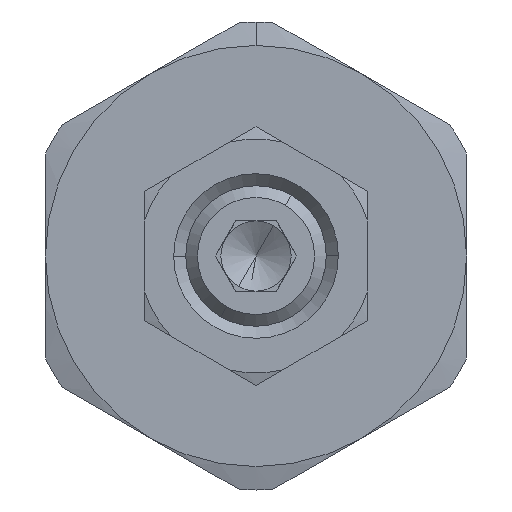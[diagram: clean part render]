
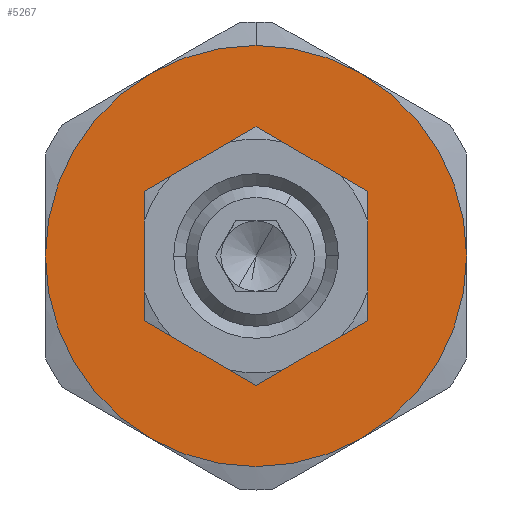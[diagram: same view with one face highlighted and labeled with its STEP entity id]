
A CAD part, front view. The second image highlights one B-rep face of the part: STEP entity #5267.
In plain terms, the highlighted planar face has unit normal (0, -1, 0).
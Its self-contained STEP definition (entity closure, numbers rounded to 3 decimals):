
#10 = CARTESIAN_POINT ( 'NONE',  ( 0., -2.5, 0. ) ) ;
#11 = DIRECTION ( 'NONE',  ( 0., -1., 0. ) ) ;
#12 = DIRECTION ( 'NONE',  ( 0., 0., -1. ) ) ;
#20 = CARTESIAN_POINT ( 'NONE',  ( 0., -2.5, 0. ) ) ;
#21 = DIRECTION ( 'NONE',  ( 0., -1., 0. ) ) ;
#22 = DIRECTION ( 'NONE',  ( 0., 0., -1. ) ) ;
#359 = CARTESIAN_POINT ( 'NONE',  ( 0., -2.5, -2.5 ) ) ;
#368 = CARTESIAN_POINT ( 'NONE',  ( 0., -2.5, 2.5 ) ) ;
#370 = CARTESIAN_POINT ( 'NONE',  ( 0., -2.5, 9. ) ) ;
#374 = CARTESIAN_POINT ( 'NONE',  ( 0., -2.5, -9. ) ) ;
#1100 = CARTESIAN_POINT ( 'NONE',  ( 0., -2.5, 0. ) ) ;
#1113 = FACE_BOUND ( 'NONE', #1501, .T. ) ;
#1114 = FACE_OUTER_BOUND ( 'NONE', #1477, .T. ) ;
#1115 = PLANE ( 'NONE',  #4507 ) ;
#1117 = DIRECTION ( 'NONE',  ( 0., -1., 0. ) ) ;
#1118 = DIRECTION ( 'NONE',  ( 0., 0., -1. ) ) ;
#1202 = EDGE_CURVE ( 'NONE', #1854, #1850, #1369, .T. ) ;
#1214 = EDGE_CURVE ( 'NONE', #1848, #1839, #1370, .T. ) ;
#1217 = EDGE_CURVE ( 'NONE', #1839, #1848, #1309, .T. ) ;
#1305 = AXIS2_PLACEMENT_3D ( 'NONE', #10, #11, #12 ) ;
#1309 = CIRCLE ( 'NONE', #1359, 2.5 ) ;
#1359 = AXIS2_PLACEMENT_3D ( 'NONE', #20, #21, #22 ) ;
#1369 = CIRCLE ( 'NONE', #1449, 9. ) ;
#1370 = CIRCLE ( 'NONE', #1305, 2.5 ) ;
#1449 = AXIS2_PLACEMENT_3D ( 'NONE', #1688, #1689, #1690 ) ;
#1477 = EDGE_LOOP ( 'NONE', ( #2724, #2725 ) ) ;
#1501 = EDGE_LOOP ( 'NONE', ( #2722, #2723 ) ) ;
#1688 = CARTESIAN_POINT ( 'NONE',  ( 0., -2.5, 0. ) ) ;
#1689 = DIRECTION ( 'NONE',  ( 0., -1., 0. ) ) ;
#1690 = DIRECTION ( 'NONE',  ( 0., 0., -1. ) ) ;
#1839 = VERTEX_POINT ( 'NONE', #359 ) ;
#1848 = VERTEX_POINT ( 'NONE', #368 ) ;
#1850 = VERTEX_POINT ( 'NONE', #370 ) ;
#1854 = VERTEX_POINT ( 'NONE', #374 ) ;
#2722 = ORIENTED_EDGE ( 'NONE', *, *, #1217, .F. ) ;
#2723 = ORIENTED_EDGE ( 'NONE', *, *, #1214, .F. ) ;
#2724 = ORIENTED_EDGE ( 'NONE', *, *, #5841, .T. ) ;
#2725 = ORIENTED_EDGE ( 'NONE', *, *, #1202, .T. ) ;
#4217 = CARTESIAN_POINT ( 'NONE',  ( 0., -2.5, 0. ) ) ;
#4218 = DIRECTION ( 'NONE',  ( 0., -1., 0. ) ) ;
#4219 = DIRECTION ( 'NONE',  ( 0., 0., -1. ) ) ;
#4374 = CIRCLE ( 'NONE', #4375, 9. ) ;
#4375 = AXIS2_PLACEMENT_3D ( 'NONE', #4217, #4218, #4219 ) ;
#4507 = AXIS2_PLACEMENT_3D ( 'NONE', #1100, #1117, #1118 ) ;
#5267 = ADVANCED_FACE ( 'NONE', ( #1113, #1114 ), #1115, .T. ) ;
#5841 = EDGE_CURVE ( 'NONE', #1850, #1854, #4374, .T. ) ;
